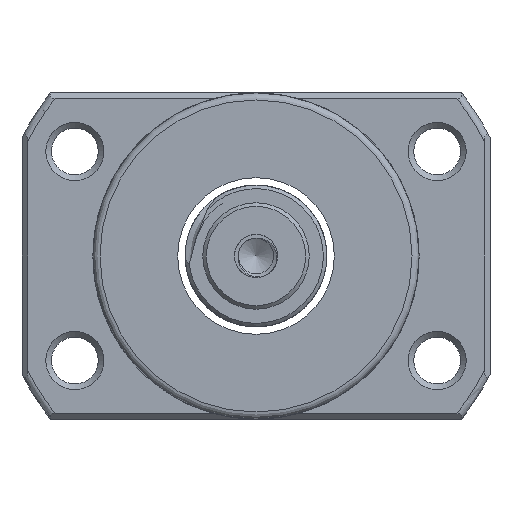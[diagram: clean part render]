
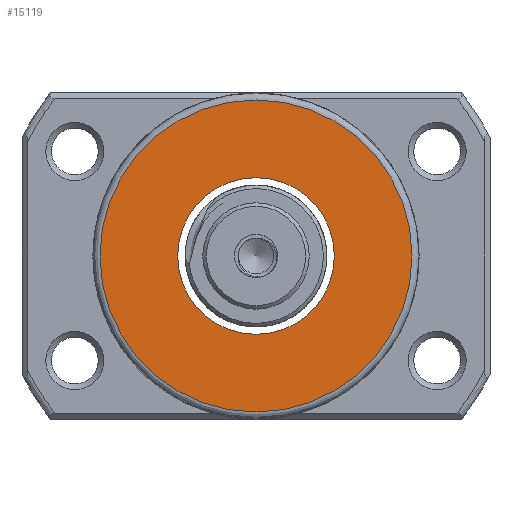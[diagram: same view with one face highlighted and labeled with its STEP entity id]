
A CAD part, left-side view. The second image highlights one B-rep face of the part: STEP entity #15119.
In plain terms, the highlighted planar face has unit normal (-1, 0, 0).
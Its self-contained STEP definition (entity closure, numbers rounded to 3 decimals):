
#669 = DIRECTION ( 'NONE',  ( 0., 0., 1. ) ) ;
#792 = CARTESIAN_POINT ( 'NONE',  ( -53.324, 0., 0. ) ) ;
#887 = EDGE_CURVE ( 'NONE', #22054, #22054, #7279, .T. ) ;
#3794 = CARTESIAN_POINT ( 'NONE',  ( -53.324, 0., 11.05 ) ) ;
#5180 = DIRECTION ( 'NONE',  ( -1., 0., 0. ) ) ;
#5840 = EDGE_LOOP ( 'NONE', ( #7356 ) ) ;
#6046 = EDGE_LOOP ( 'NONE', ( #19881 ) ) ;
#6990 = DIRECTION ( 'NONE',  ( 0., 0., 1. ) ) ;
#7279 = CIRCLE ( 'NONE', #14577, 11.05 ) ;
#7356 = ORIENTED_EDGE ( 'NONE', *, *, #17900, .T. ) ;
#7454 = PLANE ( 'NONE',  #22691 ) ;
#8909 = FACE_BOUND ( 'NONE', #6046, .T. ) ;
#11962 = VERTEX_POINT ( 'NONE', #18926 ) ;
#12405 = CARTESIAN_POINT ( 'NONE',  ( -53.324, 0., 0. ) ) ;
#13113 = DIRECTION ( 'NONE',  ( 0., 0., 1. ) ) ;
#13531 = DIRECTION ( 'NONE',  ( -1., 0., 0. ) ) ;
#14268 = AXIS2_PLACEMENT_3D ( 'NONE', #12405, #5180, #6990 ) ;
#14430 = FACE_OUTER_BOUND ( 'NONE', #5840, .T. ) ;
#14577 = AXIS2_PLACEMENT_3D ( 'NONE', #792, #13531, #669 ) ;
#14784 = DIRECTION ( 'NONE',  ( -1., 0., 0. ) ) ;
#15119 = ADVANCED_FACE ( 'NONE', ( #14430, #8909 ), #7454, .T. ) ;
#16942 = CIRCLE ( 'NONE', #14268, 22. ) ;
#17900 = EDGE_CURVE ( 'NONE', #11962, #11962, #16942, .T. ) ;
#18926 = CARTESIAN_POINT ( 'NONE',  ( -53.324, 0., 22. ) ) ;
#19881 = ORIENTED_EDGE ( 'NONE', *, *, #887, .F. ) ;
#22054 = VERTEX_POINT ( 'NONE', #3794 ) ;
#22115 = CARTESIAN_POINT ( 'NONE',  ( -53.324, 11.05, 0. ) ) ;
#22691 = AXIS2_PLACEMENT_3D ( 'NONE', #22115, #14784, #13113 ) ;
